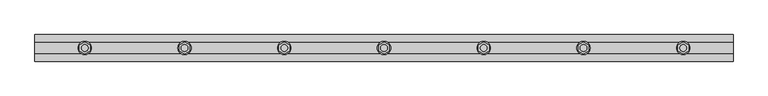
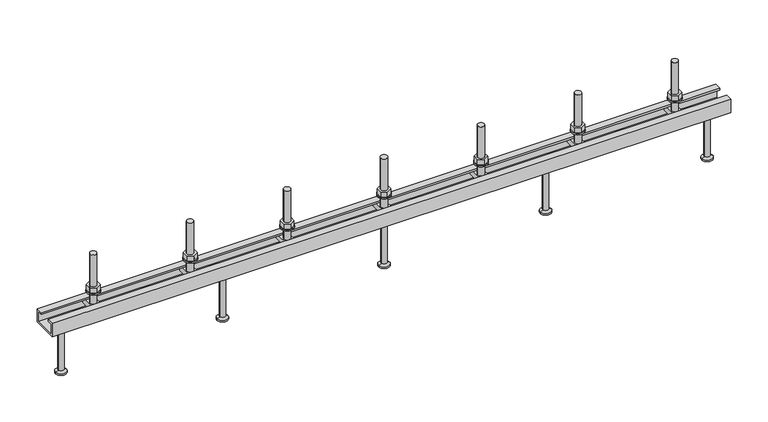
"""IFC4 building model written with IfcOpenShell, lengths in millimetres: fastener geometry, JTA-W JORDAHL® AnchorChannels : JTA-W L=1050 mm."""

from ifc_helpers import new_model, si_unit, point, frame, frame_2d, origin, place, context, project, spatial, polyline, circle_curve, trimmed, segment, composite_curve, outline, extrude, source, transform, mapped, element, save
from ifc_brep_helpers import plane_surface, cylinder_surface, revolved_surface, advanced_brep


def fastener_10b2d5fe(model_context):
    return source(origin(), model_context, "Body", "SolidModel", [
        extrude(outline(polyline([(825.0, 9.2376043), (833.0, 4.6188022), (833.0, -4.6188022), (825.0, -9.2376043), (817.0, -4.6188022), (817.0, 4.6188022), (825.0, 9.2376043)]), holes=[composite_curve([segment(trimmed(circle_curve(frame_2d((825.0, 0.0)), 5.0), [point((820.0, 0.0))], [point((830.0, 0.0))], True, "CARTESIAN"), True, "CONTINUOUS"), segment(trimmed(circle_curve(frame_2d((825.0, 0.0)), 5.0), [point((830.0, 0.0))], [point((820.0, 0.0))], True, "CARTESIAN"), True, "CONTINUOUS")], self_intersect=False)]), frame((0.0, 0.0, 17.0), z_axis=(0.0, 0.0, 1.0), x_axis=(1.0, 0.0, 0.0)), (0.0, 0.0, 1.0), 8.4),
        extrude(outline(composite_curve([segment(trimmed(circle_curve(frame_2d((825.0, 0.0)), 10.0), [point((815.0, 0.0))], [point((835.0, 0.0))], False, "CARTESIAN"), True, "CONTINUOUS"), segment(trimmed(circle_curve(frame_2d((825.0, 0.0)), 10.0), [point((835.0, 0.0))], [point((815.0, 0.0))], False, "CARTESIAN"), True, "CONTINUOUS")], self_intersect=False), holes=[composite_curve([segment(trimmed(circle_curve(frame_2d((825.0, 0.0)), 5.25), [point((819.75, 0.0))], [point((830.25, 0.0))], True, "CARTESIAN"), True, "CONTINUOUS"), segment(trimmed(circle_curve(frame_2d((825.0, 0.0)), 5.25), [point((830.25, 0.0))], [point((819.75, 0.0))], True, "CARTESIAN"), True, "CONTINUOUS")], self_intersect=False)]), frame((0.0, 0.0, 15.0), z_axis=(0.0, 0.0, 1.0), x_axis=(1.0, 0.0, 0.0)), (0.0, 0.0, 1.0), 2.0),
        extrude(outline(polyline([(675.0, 9.2376043), (683.0, 4.6188022), (683.0, -4.6188022), (675.0, -9.2376043), (667.0, -4.6188022), (667.0, 4.6188022), (675.0, 9.2376043)]), holes=[composite_curve([segment(trimmed(circle_curve(frame_2d((675.0, 0.0)), 5.0), [point((670.0, 0.0))], [point((680.0, 0.0))], True, "CARTESIAN"), True, "CONTINUOUS"), segment(trimmed(circle_curve(frame_2d((675.0, 0.0)), 5.0), [point((680.0, 0.0))], [point((670.0, 0.0))], True, "CARTESIAN"), True, "CONTINUOUS")], self_intersect=False)]), frame((0.0, 0.0, 17.0), z_axis=(0.0, 0.0, 1.0), x_axis=(1.0, 0.0, 0.0)), (0.0, 0.0, 1.0), 8.4),
        extrude(outline(composite_curve([segment(trimmed(circle_curve(frame_2d((675.0, 0.0)), 10.0), [point((665.0, 0.0))], [point((685.0, 0.0))], False, "CARTESIAN"), True, "CONTINUOUS"), segment(trimmed(circle_curve(frame_2d((675.0, 0.0)), 10.0), [point((685.0, 0.0))], [point((665.0, 0.0))], False, "CARTESIAN"), True, "CONTINUOUS")], self_intersect=False), holes=[composite_curve([segment(trimmed(circle_curve(frame_2d((675.0, 0.0)), 5.25), [point((669.75, 0.0))], [point((680.25, 0.0))], True, "CARTESIAN"), True, "CONTINUOUS"), segment(trimmed(circle_curve(frame_2d((675.0, 0.0)), 5.25), [point((680.25, 0.0))], [point((669.75, 0.0))], True, "CARTESIAN"), True, "CONTINUOUS")], self_intersect=False)]), frame((0.0, 0.0, 15.0), z_axis=(0.0, 0.0, 1.0), x_axis=(1.0, 0.0, 0.0)), (0.0, 0.0, 1.0), 2.0),
        extrude(outline(polyline([(525.0, 9.2376043), (533.0, 4.6188022), (533.0, -4.6188022), (525.0, -9.2376043), (517.0, -4.6188022), (517.0, 4.6188022), (525.0, 9.2376043)]), holes=[composite_curve([segment(trimmed(circle_curve(frame_2d((525.0, 0.0)), 5.0), [point((520.0, 0.0))], [point((530.0, 0.0))], True, "CARTESIAN"), True, "CONTINUOUS"), segment(trimmed(circle_curve(frame_2d((525.0, 0.0)), 5.0), [point((530.0, 0.0))], [point((520.0, 0.0))], True, "CARTESIAN"), True, "CONTINUOUS")], self_intersect=False)]), frame((0.0, 0.0, 17.0), z_axis=(0.0, 0.0, 1.0), x_axis=(1.0, 0.0, 0.0)), (0.0, 0.0, 1.0), 8.4),
        extrude(outline(composite_curve([segment(trimmed(circle_curve(frame_2d((525.0, 0.0)), 10.0), [point((515.0, 0.0))], [point((535.0, 0.0))], False, "CARTESIAN"), True, "CONTINUOUS"), segment(trimmed(circle_curve(frame_2d((525.0, 0.0)), 10.0), [point((535.0, 0.0))], [point((515.0, 0.0))], False, "CARTESIAN"), True, "CONTINUOUS")], self_intersect=False), holes=[composite_curve([segment(trimmed(circle_curve(frame_2d((525.0, 0.0)), 5.25), [point((519.75, 0.0))], [point((530.25, 0.0))], True, "CARTESIAN"), True, "CONTINUOUS"), segment(trimmed(circle_curve(frame_2d((525.0, 0.0)), 5.25), [point((530.25, 0.0))], [point((519.75, 0.0))], True, "CARTESIAN"), True, "CONTINUOUS")], self_intersect=False)]), frame((0.0, 0.0, 15.0), z_axis=(0.0, 0.0, 1.0), x_axis=(1.0, 0.0, 0.0)), (0.0, 0.0, 1.0), 2.0),
        extrude(outline(polyline([(375.0, 9.2376043), (383.0, 4.6188022), (383.0, -4.6188022), (375.0, -9.2376043), (367.0, -4.6188022), (367.0, 4.6188022), (375.0, 9.2376043)]), holes=[composite_curve([segment(trimmed(circle_curve(frame_2d((375.0, 0.0)), 5.0), [point((370.0, 0.0))], [point((380.0, 0.0))], True, "CARTESIAN"), True, "CONTINUOUS"), segment(trimmed(circle_curve(frame_2d((375.0, 0.0)), 5.0), [point((380.0, 0.0))], [point((370.0, 0.0))], True, "CARTESIAN"), True, "CONTINUOUS")], self_intersect=False)]), frame((0.0, 0.0, 17.0), z_axis=(0.0, 0.0, 1.0), x_axis=(1.0, 0.0, 0.0)), (0.0, 0.0, 1.0), 8.4),
        extrude(outline(composite_curve([segment(trimmed(circle_curve(frame_2d((375.0, 0.0)), 10.0), [point((365.0, 0.0))], [point((385.0, 0.0))], False, "CARTESIAN"), True, "CONTINUOUS"), segment(trimmed(circle_curve(frame_2d((375.0, 0.0)), 10.0), [point((385.0, 0.0))], [point((365.0, 0.0))], False, "CARTESIAN"), True, "CONTINUOUS")], self_intersect=False), holes=[composite_curve([segment(trimmed(circle_curve(frame_2d((375.0, 0.0)), 5.25), [point((369.75, 0.0))], [point((380.25, 0.0))], True, "CARTESIAN"), True, "CONTINUOUS"), segment(trimmed(circle_curve(frame_2d((375.0, 0.0)), 5.25), [point((380.25, 0.0))], [point((369.75, 0.0))], True, "CARTESIAN"), True, "CONTINUOUS")], self_intersect=False)]), frame((0.0, 0.0, 15.0), z_axis=(0.0, 0.0, 1.0), x_axis=(1.0, 0.0, 0.0)), (0.0, 0.0, 1.0), 2.0),
        extrude(outline(polyline([(225.0, 9.2376043), (233.0, 4.6188022), (233.0, -4.6188022), (225.0, -9.2376043), (217.0, -4.6188022), (217.0, 4.6188022), (225.0, 9.2376043)]), holes=[composite_curve([segment(trimmed(circle_curve(frame_2d((225.0, 0.0)), 5.0), [point((220.0, 0.0))], [point((230.0, 0.0))], True, "CARTESIAN"), True, "CONTINUOUS"), segment(trimmed(circle_curve(frame_2d((225.0, 0.0)), 5.0), [point((230.0, 0.0))], [point((220.0, 0.0))], True, "CARTESIAN"), True, "CONTINUOUS")], self_intersect=False)]), frame((0.0, 0.0, 17.0), z_axis=(0.0, 0.0, 1.0), x_axis=(1.0, 0.0, 0.0)), (0.0, 0.0, 1.0), 8.4),
        extrude(outline(composite_curve([segment(trimmed(circle_curve(frame_2d((225.0, 0.0)), 10.0), [point((215.0, 0.0))], [point((235.0, 0.0))], False, "CARTESIAN"), True, "CONTINUOUS"), segment(trimmed(circle_curve(frame_2d((225.0, 0.0)), 10.0), [point((235.0, 0.0))], [point((215.0, 0.0))], False, "CARTESIAN"), True, "CONTINUOUS")], self_intersect=False), holes=[composite_curve([segment(trimmed(circle_curve(frame_2d((225.0, 0.0)), 5.25), [point((219.75, 0.0))], [point((230.25, 0.0))], True, "CARTESIAN"), True, "CONTINUOUS"), segment(trimmed(circle_curve(frame_2d((225.0, 0.0)), 5.25), [point((230.25, 0.0))], [point((219.75, 0.0))], True, "CARTESIAN"), True, "CONTINUOUS")], self_intersect=False)]), frame((0.0, 0.0, 15.0), z_axis=(0.0, 0.0, 1.0), x_axis=(1.0, 0.0, 0.0)), (0.0, 0.0, 1.0), 2.0),
        advanced_brep(
        [(832.0, 16.25, -3.0), (832.0, -16.25, -3.0), (832.0, -16.25, -11.0), (832.0, 16.25, -11.0), (818.0, 16.25, -3.0), (818.0, 16.25, -11.0), (818.0, -16.25, -11.0), (818.0, -16.25, -3.0), (830.0, 0.0, -3.0), (820.0, 0.0, -3.0), (820.0, 0.0, 77.0), (830.0, 0.0, 77.0)],
        [
            (0, 1),
            (1, 2),
            (2, 3),
            (3, 0),
            (4, 5),
            (5, 6),
            (6, 7),
            (7, 4),
            (0, 4),
            (7, 1),
            (8, 9, circle_curve(frame((825.0, 0.0, -3.0), z_axis=(0.0, 0.0, -1.0), x_axis=(1.0, 0.0, 0.0)), 5.0)),
            (9, 8, circle_curve(frame((825.0, 0.0, -3.0), z_axis=(0.0, 0.0, -1.0), x_axis=(1.0, 0.0, 0.0)), 5.0)),
            (6, 2),
            (5, 3),
            (10, 11, circle_curve(frame((825.0, 0.0, 77.0), z_axis=(0.0, 0.0, 1.0), x_axis=(1.0, 0.0, 0.0)), 5.0)),
            (11, 10, circle_curve(frame((825.0, 0.0, 77.0), z_axis=(0.0, 0.0, 1.0), x_axis=(1.0, 0.0, 0.0)), 5.0)),
            (10, 9),
            (8, 11),
        ],
        [
            plane_surface(frame((832.0, -16.25, -3.0), z_axis=(1.0, 0.0, 0.0), x_axis=(0.0, -1.0, 0.0))),
            plane_surface(frame((818.0, -16.25, -3.0), z_axis=(-1.0, 0.0, 0.0), x_axis=(0.0, 1.0, 0.0))),
            plane_surface(frame((832.0, 16.25, -3.0), z_axis=(0.0, 0.0, 1.0), x_axis=(-1.0, 0.0, 0.0))),
            plane_surface(frame((832.0, -16.25, -3.0), z_axis=(0.0, -1.0, 0.0), x_axis=(-1.0, 0.0, 0.0))),
            plane_surface(frame((832.0, -16.25, -11.0), z_axis=(0.0, 0.0, -1.0), x_axis=(-1.0, 0.0, 0.0))),
            plane_surface(frame((832.0, 16.25, -11.0), z_axis=(0.0, 1.0, 0.0), x_axis=(-1.0, 0.0, 0.0))),
            plane_surface(frame((830.0, 0.0, 77.0), z_axis=(0.0, 0.0, 1.0), x_axis=(0.0, 1.0, 0.0))),
            cylinder_surface(frame((825.0, 0.0, -3.0), z_axis=(0.0, 0.0, 1.0), x_axis=(1.0, 0.0, 0.0)), 5.0),
        ],
        [
            (0, [[1, 2, 3, 4]]),
            (1, [[5, 6, 7, 8]]),
            (2, [[-1, 9, -8, 10], [11, 12]]),
            (3, [[-2, -10, -7, 13]]),
            (4, [[-3, -13, -6, 14]]),
            (5, [[-4, -14, -5, -9]]),
            (6, [[15, 16]]),
            (7, [[-15, 17, -11, 18]]),
            (7, [[-16, -18, -12, -17]]),
        ],
    ),
        advanced_brep(
        [(682.0, 16.25, -3.0), (682.0, -16.25, -3.0), (682.0, -16.25, -11.0), (682.0, 16.25, -11.0), (668.0, 16.25, -3.0), (668.0, 16.25, -11.0), (668.0, -16.25, -11.0), (668.0, -16.25, -3.0), (680.0, 0.0, -3.0), (670.0, 0.0, -3.0), (670.0, 0.0, 77.0), (680.0, 0.0, 77.0)],
        [
            (0, 1),
            (1, 2),
            (2, 3),
            (3, 0),
            (4, 5),
            (5, 6),
            (6, 7),
            (7, 4),
            (0, 4),
            (7, 1),
            (8, 9, circle_curve(frame((675.0, 0.0, -3.0), z_axis=(0.0, 0.0, -1.0), x_axis=(1.0, 0.0, 0.0)), 5.0)),
            (9, 8, circle_curve(frame((675.0, 0.0, -3.0), z_axis=(0.0, 0.0, -1.0), x_axis=(1.0, 0.0, 0.0)), 5.0)),
            (6, 2),
            (5, 3),
            (10, 11, circle_curve(frame((675.0, 0.0, 77.0), z_axis=(0.0, 0.0, 1.0), x_axis=(1.0, 0.0, 0.0)), 5.0)),
            (11, 10, circle_curve(frame((675.0, 0.0, 77.0), z_axis=(0.0, 0.0, 1.0), x_axis=(1.0, 0.0, 0.0)), 5.0)),
            (10, 9),
            (8, 11),
        ],
        [
            plane_surface(frame((682.0, -16.25, -3.0), z_axis=(1.0, 0.0, 0.0), x_axis=(0.0, -1.0, 0.0))),
            plane_surface(frame((668.0, -16.25, -3.0), z_axis=(-1.0, 0.0, 0.0), x_axis=(0.0, 1.0, 0.0))),
            plane_surface(frame((682.0, 16.25, -3.0), z_axis=(0.0, 0.0, 1.0), x_axis=(-1.0, 0.0, 0.0))),
            plane_surface(frame((682.0, -16.25, -3.0), z_axis=(0.0, -1.0, 0.0), x_axis=(-1.0, 0.0, 0.0))),
            plane_surface(frame((682.0, -16.25, -11.0), z_axis=(0.0, 0.0, -1.0), x_axis=(-1.0, 0.0, 0.0))),
            plane_surface(frame((682.0, 16.25, -11.0), z_axis=(0.0, 1.0, 0.0), x_axis=(-1.0, 0.0, 0.0))),
            plane_surface(frame((680.0, 0.0, 77.0), z_axis=(0.0, 0.0, 1.0), x_axis=(0.0, 1.0, 0.0))),
            cylinder_surface(frame((675.0, 0.0, -3.0), z_axis=(0.0, 0.0, 1.0), x_axis=(1.0, 0.0, 0.0)), 5.0),
        ],
        [
            (0, [[1, 2, 3, 4]]),
            (1, [[5, 6, 7, 8]]),
            (2, [[-1, 9, -8, 10], [11, 12]]),
            (3, [[-2, -10, -7, 13]]),
            (4, [[-3, -13, -6, 14]]),
            (5, [[-4, -14, -5, -9]]),
            (6, [[15, 16]]),
            (7, [[-15, 17, -11, 18]]),
            (7, [[-16, -18, -12, -17]]),
        ],
    ),
        advanced_brep(
        [(532.0, 16.25, -3.0), (532.0, -16.25, -3.0), (532.0, -16.25, -11.0), (532.0, 16.25, -11.0), (518.0, 16.25, -3.0), (518.0, 16.25, -11.0), (518.0, -16.25, -11.0), (518.0, -16.25, -3.0), (530.0, 0.0, -3.0), (520.0, 0.0, -3.0), (520.0, 0.0, 77.0), (530.0, 0.0, 77.0)],
        [
            (0, 1),
            (1, 2),
            (2, 3),
            (3, 0),
            (4, 5),
            (5, 6),
            (6, 7),
            (7, 4),
            (0, 4),
            (7, 1),
            (8, 9, circle_curve(frame((525.0, 0.0, -3.0), z_axis=(0.0, 0.0, -1.0), x_axis=(1.0, 0.0, 0.0)), 5.0)),
            (9, 8, circle_curve(frame((525.0, 0.0, -3.0), z_axis=(0.0, 0.0, -1.0), x_axis=(1.0, 0.0, 0.0)), 5.0)),
            (6, 2),
            (5, 3),
            (10, 11, circle_curve(frame((525.0, 0.0, 77.0), z_axis=(0.0, 0.0, 1.0), x_axis=(1.0, 0.0, 0.0)), 5.0)),
            (11, 10, circle_curve(frame((525.0, 0.0, 77.0), z_axis=(0.0, 0.0, 1.0), x_axis=(1.0, 0.0, 0.0)), 5.0)),
            (10, 9),
            (8, 11),
        ],
        [
            plane_surface(frame((532.0, -16.25, -3.0), z_axis=(1.0, 0.0, 0.0), x_axis=(0.0, -1.0, 0.0))),
            plane_surface(frame((518.0, -16.25, -3.0), z_axis=(-1.0, 0.0, 0.0), x_axis=(0.0, 1.0, 0.0))),
            plane_surface(frame((532.0, 16.25, -3.0), z_axis=(0.0, 0.0, 1.0), x_axis=(-1.0, 0.0, 0.0))),
            plane_surface(frame((532.0, -16.25, -3.0), z_axis=(0.0, -1.0, 0.0), x_axis=(-1.0, 0.0, 0.0))),
            plane_surface(frame((532.0, -16.25, -11.0), z_axis=(0.0, 0.0, -1.0), x_axis=(-1.0, 0.0, 0.0))),
            plane_surface(frame((532.0, 16.25, -11.0), z_axis=(0.0, 1.0, 0.0), x_axis=(-1.0, 0.0, 0.0))),
            plane_surface(frame((530.0, 0.0, 77.0), z_axis=(0.0, 0.0, 1.0), x_axis=(0.0, 1.0, 0.0))),
            cylinder_surface(frame((525.0, 0.0, -3.0), z_axis=(0.0, 0.0, 1.0), x_axis=(1.0, 0.0, 0.0)), 5.0),
        ],
        [
            (0, [[1, 2, 3, 4]]),
            (1, [[5, 6, 7, 8]]),
            (2, [[-1, 9, -8, 10], [11, 12]]),
            (3, [[-2, -10, -7, 13]]),
            (4, [[-3, -13, -6, 14]]),
            (5, [[-4, -14, -5, -9]]),
            (6, [[15, 16]]),
            (7, [[-15, 17, -11, 18]]),
            (7, [[-16, -18, -12, -17]]),
        ],
    ),
        advanced_brep(
        [(382.0, 16.25, -3.0), (382.0, -16.25, -3.0), (382.0, -16.25, -11.0), (382.0, 16.25, -11.0), (368.0, 16.25, -3.0), (368.0, 16.25, -11.0), (368.0, -16.25, -11.0), (368.0, -16.25, -3.0), (380.0, 0.0, -3.0), (370.0, 0.0, -3.0), (370.0, 0.0, 77.0), (380.0, 0.0, 77.0)],
        [
            (0, 1),
            (1, 2),
            (2, 3),
            (3, 0),
            (4, 5),
            (5, 6),
            (6, 7),
            (7, 4),
            (0, 4),
            (7, 1),
            (8, 9, circle_curve(frame((375.0, 0.0, -3.0), z_axis=(0.0, 0.0, -1.0), x_axis=(1.0, 0.0, 0.0)), 5.0)),
            (9, 8, circle_curve(frame((375.0, 0.0, -3.0), z_axis=(0.0, 0.0, -1.0), x_axis=(1.0, 0.0, 0.0)), 5.0)),
            (6, 2),
            (5, 3),
            (10, 11, circle_curve(frame((375.0, 0.0, 77.0), z_axis=(0.0, 0.0, 1.0), x_axis=(1.0, 0.0, 0.0)), 5.0)),
            (11, 10, circle_curve(frame((375.0, 0.0, 77.0), z_axis=(0.0, 0.0, 1.0), x_axis=(1.0, 0.0, 0.0)), 5.0)),
            (10, 9),
            (8, 11),
        ],
        [
            plane_surface(frame((382.0, -16.25, -3.0), z_axis=(1.0, 0.0, 0.0), x_axis=(0.0, -1.0, 0.0))),
            plane_surface(frame((368.0, -16.25, -3.0), z_axis=(-1.0, 0.0, 0.0), x_axis=(0.0, 1.0, 0.0))),
            plane_surface(frame((382.0, 16.25, -3.0), z_axis=(0.0, 0.0, 1.0), x_axis=(-1.0, 0.0, 0.0))),
            plane_surface(frame((382.0, -16.25, -3.0), z_axis=(0.0, -1.0, 0.0), x_axis=(-1.0, 0.0, 0.0))),
            plane_surface(frame((382.0, -16.25, -11.0), z_axis=(0.0, 0.0, -1.0), x_axis=(-1.0, 0.0, 0.0))),
            plane_surface(frame((382.0, 16.25, -11.0), z_axis=(0.0, 1.0, 0.0), x_axis=(-1.0, 0.0, 0.0))),
            plane_surface(frame((380.0, 0.0, 77.0), z_axis=(0.0, 0.0, 1.0), x_axis=(0.0, 1.0, 0.0))),
            cylinder_surface(frame((375.0, 0.0, -3.0), z_axis=(0.0, 0.0, 1.0), x_axis=(1.0, 0.0, 0.0)), 5.0),
        ],
        [
            (0, [[1, 2, 3, 4]]),
            (1, [[5, 6, 7, 8]]),
            (2, [[-1, 9, -8, 10], [11, 12]]),
            (3, [[-2, -10, -7, 13]]),
            (4, [[-3, -13, -6, 14]]),
            (5, [[-4, -14, -5, -9]]),
            (6, [[15, 16]]),
            (7, [[-15, 17, -11, 18]]),
            (7, [[-16, -18, -12, -17]]),
        ],
    ),
        advanced_brep(
        [(232.0, 16.25, -3.0), (232.0, -16.25, -3.0), (232.0, -16.25, -11.0), (232.0, 16.25, -11.0), (218.0, 16.25, -3.0), (218.0, 16.25, -11.0), (218.0, -16.25, -11.0), (218.0, -16.25, -3.0), (230.0, 0.0, -3.0), (220.0, 0.0, -3.0), (220.0, 0.0, 77.0), (230.0, 0.0, 77.0)],
        [
            (0, 1),
            (1, 2),
            (2, 3),
            (3, 0),
            (4, 5),
            (5, 6),
            (6, 7),
            (7, 4),
            (0, 4),
            (7, 1),
            (8, 9, circle_curve(frame((225.0, 0.0, -3.0), z_axis=(0.0, 0.0, -1.0), x_axis=(1.0, 0.0, 0.0)), 5.0)),
            (9, 8, circle_curve(frame((225.0, 0.0, -3.0), z_axis=(0.0, 0.0, -1.0), x_axis=(1.0, 0.0, 0.0)), 5.0)),
            (6, 2),
            (5, 3),
            (10, 11, circle_curve(frame((225.0, 0.0, 77.0), z_axis=(0.0, 0.0, 1.0), x_axis=(1.0, 0.0, 0.0)), 5.0)),
            (11, 10, circle_curve(frame((225.0, 0.0, 77.0), z_axis=(0.0, 0.0, 1.0), x_axis=(1.0, 0.0, 0.0)), 5.0)),
            (10, 9),
            (8, 11),
        ],
        [
            plane_surface(frame((232.0, -16.25, -3.0), z_axis=(1.0, 0.0, 0.0), x_axis=(0.0, -1.0, 0.0))),
            plane_surface(frame((218.0, -16.25, -3.0), z_axis=(-1.0, 0.0, 0.0), x_axis=(0.0, 1.0, 0.0))),
            plane_surface(frame((232.0, 16.25, -3.0), z_axis=(0.0, 0.0, 1.0), x_axis=(-1.0, 0.0, 0.0))),
            plane_surface(frame((232.0, -16.25, -3.0), z_axis=(0.0, -1.0, 0.0), x_axis=(-1.0, 0.0, 0.0))),
            plane_surface(frame((232.0, -16.25, -11.0), z_axis=(0.0, 0.0, -1.0), x_axis=(-1.0, 0.0, 0.0))),
            plane_surface(frame((232.0, 16.25, -11.0), z_axis=(0.0, 1.0, 0.0), x_axis=(-1.0, 0.0, 0.0))),
            plane_surface(frame((230.0, 0.0, 77.0), z_axis=(0.0, 0.0, 1.0), x_axis=(0.0, 1.0, 0.0))),
            cylinder_surface(frame((225.0, 0.0, -3.0), z_axis=(0.0, 0.0, 1.0), x_axis=(1.0, 0.0, 0.0)), 5.0),
        ],
        [
            (0, [[1, 2, 3, 4]]),
            (1, [[5, 6, 7, 8]]),
            (2, [[-1, 9, -8, 10], [11, 12]]),
            (3, [[-2, -10, -7, 13]]),
            (4, [[-3, -13, -6, 14]]),
            (5, [[-4, -14, -5, -9]]),
            (6, [[15, 16]]),
            (7, [[-15, 17, -11, 18]]),
            (7, [[-16, -18, -12, -17]]),
        ],
    ),
        advanced_brep(
        [(775.0, 0.0, -22.0), (788.5, 0.0, -22.0), (761.5, 0.0, -22.0), (766.5, 0.0, -100.0), (783.5, 0.0, -100.0), (775.0, 0.0, -100.0), (766.5, 0.0, -98.0), (783.5, 0.0, -98.0), (770.5, 0.0, -95.6905989), (779.5, 0.0, -95.6905989), (770.5, 0.0, -24.5), (779.5, 0.0, -24.5)],
        [
            (0, 1),
            (1, 2, circle_curve(frame((775.0, 0.0, -22.0), z_axis=(0.0, 0.0, 1.0), x_axis=(1.0, 0.0, 0.0)), 13.5)),
            (2, 0),
            (2, 1, circle_curve(frame((775.0, 0.0, -22.0), z_axis=(0.0, 0.0, 1.0), x_axis=(1.0, 0.0, 0.0)), 13.5)),
            (3, 4, circle_curve(frame((775.0, 0.0, -100.0), z_axis=(0.0, 0.0, -1.0), x_axis=(1.0, 0.0, 0.0)), 8.5)),
            (4, 5),
            (5, 3),
            (4, 3, circle_curve(frame((775.0, 0.0, -100.0), z_axis=(0.0, 0.0, -1.0), x_axis=(1.0, 0.0, 0.0)), 8.5)),
            (6, 7, circle_curve(frame((775.0, 0.0, -98.0), z_axis=(0.0, 0.0, -1.0), x_axis=(1.0, 0.0, 0.0)), 8.5)),
            (7, 4),
            (3, 6),
            (7, 6, circle_curve(frame((775.0, 0.0, -98.0), z_axis=(0.0, 0.0, -1.0), x_axis=(1.0, 0.0, 0.0)), 8.5)),
            (8, 9, circle_curve(frame((775.0, 0.0, -95.6905989), z_axis=(0.0, 0.0, -1.0), x_axis=(1.0, 0.0, 0.0)), 4.5)),
            (9, 7),
            (6, 8),
            (9, 8, circle_curve(frame((775.0, 0.0, -95.6905989), z_axis=(0.0, 0.0, -1.0), x_axis=(1.0, 0.0, 0.0)), 4.5)),
            (10, 11, circle_curve(frame((775.0, 0.0, -24.5), z_axis=(0.0, 0.0, -1.0), x_axis=(1.0, 0.0, 0.0)), 4.5)),
            (11, 9),
            (8, 10),
            (11, 10, circle_curve(frame((775.0, 0.0, -24.5), z_axis=(0.0, 0.0, -1.0), x_axis=(1.0, 0.0, 0.0)), 4.5)),
            (1, 11),
            (10, 2),
        ],
        [
            plane_surface(frame((775.0, 0.0, -22.0), z_axis=(0.0, 0.0, 1.0), x_axis=(1.0, 0.0, 0.0))),
            plane_surface(frame((775.0, 0.0, -100.0), z_axis=(0.0, 0.0, -1.0), x_axis=(1.0, 0.0, 0.0))),
            cylinder_surface(frame((775.0, 0.0, 2292.3150031), z_axis=(0.0, 0.0, 1.0), x_axis=(1.0, 0.0, 0.0)), 8.5),
            revolved_surface(polyline([(783.5, 0.0, -98.0), (779.5, 0.0, -95.6905989)]), (775.0, 0.0, 2292.3150031), (0.0, 0.0, 1.0)),
            cylinder_surface(frame((775.0, 0.0, 2292.3150031), z_axis=(0.0, 0.0, 1.0), x_axis=(1.0, 0.0, 0.0)), 4.5),
            revolved_surface(polyline([(779.5, 0.0, -24.5), (788.5, 0.0, -22.0)]), (775.0, 0.0, 2292.3150031), (0.0, 0.0, 1.0)),
        ],
        [
            (0, [[1, 2, 3]]),
            (0, [[-3, 4, -1]]),
            (1, [[5, 6, 7]]),
            (1, [[8, -7, -6]]),
            (2, [[9, 10, -5, 11]]),
            (2, [[12, -11, -8, -10]]),
            (3, [[13, 14, -9, 15]]),
            (3, [[16, -15, -12, -14]]),
            (4, [[17, 18, -13, 19]]),
            (4, [[20, -19, -16, -18]]),
            (5, [[-2, 21, -17, 22]]),
            (5, [[-4, -22, -20, -21]]),
        ],
    ),
        advanced_brep(
        [(525.0, 0.0, -22.0), (538.5, 0.0, -22.0), (511.5, 0.0, -22.0), (516.5, 0.0, -100.0), (533.5, 0.0, -100.0), (525.0, 0.0, -100.0), (516.5, 0.0, -98.0), (533.5, 0.0, -98.0), (520.5, 0.0, -95.6905989), (529.5, 0.0, -95.6905989), (520.5, 0.0, -24.5), (529.5, 0.0, -24.5)],
        [
            (0, 1),
            (1, 2, circle_curve(frame((525.0, 0.0, -22.0), z_axis=(0.0, 0.0, 1.0), x_axis=(1.0, 0.0, 0.0)), 13.5)),
            (2, 0),
            (2, 1, circle_curve(frame((525.0, 0.0, -22.0), z_axis=(0.0, 0.0, 1.0), x_axis=(1.0, 0.0, 0.0)), 13.5)),
            (3, 4, circle_curve(frame((525.0, 0.0, -100.0), z_axis=(0.0, 0.0, -1.0), x_axis=(1.0, 0.0, 0.0)), 8.5)),
            (4, 5),
            (5, 3),
            (4, 3, circle_curve(frame((525.0, 0.0, -100.0), z_axis=(0.0, 0.0, -1.0), x_axis=(1.0, 0.0, 0.0)), 8.5)),
            (6, 7, circle_curve(frame((525.0, 0.0, -98.0), z_axis=(0.0, 0.0, -1.0), x_axis=(1.0, 0.0, 0.0)), 8.5)),
            (7, 4),
            (3, 6),
            (7, 6, circle_curve(frame((525.0, 0.0, -98.0), z_axis=(0.0, 0.0, -1.0), x_axis=(1.0, 0.0, 0.0)), 8.5)),
            (8, 9, circle_curve(frame((525.0, 0.0, -95.6905989), z_axis=(0.0, 0.0, -1.0), x_axis=(1.0, 0.0, 0.0)), 4.5)),
            (9, 7),
            (6, 8),
            (9, 8, circle_curve(frame((525.0, 0.0, -95.6905989), z_axis=(0.0, 0.0, -1.0), x_axis=(1.0, 0.0, 0.0)), 4.5)),
            (10, 11, circle_curve(frame((525.0, 0.0, -24.5), z_axis=(0.0, 0.0, -1.0), x_axis=(1.0, 0.0, 0.0)), 4.5)),
            (11, 9),
            (8, 10),
            (11, 10, circle_curve(frame((525.0, 0.0, -24.5), z_axis=(0.0, 0.0, -1.0), x_axis=(1.0, 0.0, 0.0)), 4.5)),
            (1, 11),
            (10, 2),
        ],
        [
            plane_surface(frame((525.0, 0.0, -22.0), z_axis=(0.0, 0.0, 1.0), x_axis=(1.0, 0.0, 0.0))),
            plane_surface(frame((525.0, 0.0, -100.0), z_axis=(0.0, 0.0, -1.0), x_axis=(1.0, 0.0, 0.0))),
            cylinder_surface(frame((525.0, 0.0, 2292.3150031), z_axis=(0.0, 0.0, 1.0), x_axis=(1.0, 0.0, 0.0)), 8.5),
            revolved_surface(polyline([(533.5, 0.0, -98.0), (529.5, 0.0, -95.6905989)]), (525.0, 0.0, 2292.3150031), (0.0, 0.0, 1.0)),
            cylinder_surface(frame((525.0, 0.0, 2292.3150031), z_axis=(0.0, 0.0, 1.0), x_axis=(1.0, 0.0, 0.0)), 4.5),
            revolved_surface(polyline([(529.5, 0.0, -24.5), (538.5, 0.0, -22.0)]), (525.0, 0.0, 2292.3150031), (0.0, 0.0, 1.0)),
        ],
        [
            (0, [[1, 2, 3]]),
            (0, [[-3, 4, -1]]),
            (1, [[5, 6, 7]]),
            (1, [[8, -7, -6]]),
            (2, [[9, 10, -5, 11]]),
            (2, [[12, -11, -8, -10]]),
            (3, [[13, 14, -9, 15]]),
            (3, [[16, -15, -12, -14]]),
            (4, [[17, 18, -13, 19]]),
            (4, [[20, -19, -16, -18]]),
            (5, [[-2, 21, -17, 22]]),
            (5, [[-4, -22, -20, -21]]),
        ],
    ),
        advanced_brep(
        [(275.0, 0.0, -22.0), (288.5, 0.0, -22.0), (261.5, 0.0, -22.0), (266.5, 0.0, -100.0), (283.5, 0.0, -100.0), (275.0, 0.0, -100.0), (266.5, 0.0, -98.0), (283.5, 0.0, -98.0), (270.5, 0.0, -95.6905989), (279.5, 0.0, -95.6905989), (270.5, 0.0, -24.5), (279.5, 0.0, -24.5)],
        [
            (0, 1),
            (1, 2, circle_curve(frame((275.0, 0.0, -22.0), z_axis=(0.0, 0.0, 1.0), x_axis=(1.0, 0.0, 0.0)), 13.5)),
            (2, 0),
            (2, 1, circle_curve(frame((275.0, 0.0, -22.0), z_axis=(0.0, 0.0, 1.0), x_axis=(1.0, 0.0, 0.0)), 13.5)),
            (3, 4, circle_curve(frame((275.0, 0.0, -100.0), z_axis=(0.0, 0.0, -1.0), x_axis=(1.0, 0.0, 0.0)), 8.5)),
            (4, 5),
            (5, 3),
            (4, 3, circle_curve(frame((275.0, 0.0, -100.0), z_axis=(0.0, 0.0, -1.0), x_axis=(1.0, 0.0, 0.0)), 8.5)),
            (6, 7, circle_curve(frame((275.0, 0.0, -98.0), z_axis=(0.0, 0.0, -1.0), x_axis=(1.0, 0.0, 0.0)), 8.5)),
            (7, 4),
            (3, 6),
            (7, 6, circle_curve(frame((275.0, 0.0, -98.0), z_axis=(0.0, 0.0, -1.0), x_axis=(1.0, 0.0, 0.0)), 8.5)),
            (8, 9, circle_curve(frame((275.0, 0.0, -95.6905989), z_axis=(0.0, 0.0, -1.0), x_axis=(1.0, 0.0, 0.0)), 4.5)),
            (9, 7),
            (6, 8),
            (9, 8, circle_curve(frame((275.0, 0.0, -95.6905989), z_axis=(0.0, 0.0, -1.0), x_axis=(1.0, 0.0, 0.0)), 4.5)),
            (10, 11, circle_curve(frame((275.0, 0.0, -24.5), z_axis=(0.0, 0.0, -1.0), x_axis=(1.0, 0.0, 0.0)), 4.5)),
            (11, 9),
            (8, 10),
            (11, 10, circle_curve(frame((275.0, 0.0, -24.5), z_axis=(0.0, 0.0, -1.0), x_axis=(1.0, 0.0, 0.0)), 4.5)),
            (1, 11),
            (10, 2),
        ],
        [
            plane_surface(frame((275.0, 0.0, -22.0), z_axis=(0.0, 0.0, 1.0), x_axis=(1.0, 0.0, 0.0))),
            plane_surface(frame((275.0, 0.0, -100.0), z_axis=(0.0, 0.0, -1.0), x_axis=(1.0, 0.0, 0.0))),
            cylinder_surface(frame((275.0, 0.0, 2292.3150031), z_axis=(0.0, 0.0, 1.0), x_axis=(1.0, 0.0, 0.0)), 8.5),
            revolved_surface(polyline([(283.5, 0.0, -98.0), (279.5, 0.0, -95.6905989)]), (275.0, 0.0, 2292.3150031), (0.0, 0.0, 1.0)),
            cylinder_surface(frame((275.0, 0.0, 2292.3150031), z_axis=(0.0, 0.0, 1.0), x_axis=(1.0, 0.0, 0.0)), 4.5),
            revolved_surface(polyline([(279.5, 0.0, -24.5), (288.5, 0.0, -22.0)]), (275.0, 0.0, 2292.3150031), (0.0, 0.0, 1.0)),
        ],
        [
            (0, [[1, 2, 3]]),
            (0, [[-3, 4, -1]]),
            (1, [[5, 6, 7]]),
            (1, [[8, -7, -6]]),
            (2, [[9, 10, -5, 11]]),
            (2, [[12, -11, -8, -10]]),
            (3, [[13, 14, -9, 15]]),
            (3, [[16, -15, -12, -14]]),
            (4, [[17, 18, -13, 19]]),
            (4, [[20, -19, -16, -18]]),
            (5, [[-2, 21, -17, 22]]),
            (5, [[-4, -22, -20, -21]]),
        ],
    ),
        extrude(outline(polyline([(975.0, 9.2376043), (983.0, 4.6188022), (983.0, -4.6188022), (975.0, -9.2376043), (967.0, -4.6188022), (967.0, 4.6188022), (975.0, 9.2376043)]), holes=[composite_curve([segment(trimmed(circle_curve(frame_2d((975.0, 0.0)), 5.0), [point((970.0, 0.0))], [point((980.0, 0.0))], True, "CARTESIAN"), True, "CONTINUOUS"), segment(trimmed(circle_curve(frame_2d((975.0, 0.0)), 5.0), [point((980.0, 0.0))], [point((970.0, 0.0))], True, "CARTESIAN"), True, "CONTINUOUS")], self_intersect=False)]), frame((0.0, 0.0, 17.0), z_axis=(0.0, 0.0, 1.0), x_axis=(1.0, 0.0, 0.0)), (0.0, 0.0, 1.0), 8.4),
        extrude(outline(composite_curve([segment(trimmed(circle_curve(frame_2d((975.0, 0.0)), 10.0), [point((965.0, 0.0))], [point((985.0, 0.0))], False, "CARTESIAN"), True, "CONTINUOUS"), segment(trimmed(circle_curve(frame_2d((975.0, 0.0)), 10.0), [point((985.0, 0.0))], [point((965.0, 0.0))], False, "CARTESIAN"), True, "CONTINUOUS")], self_intersect=False), holes=[composite_curve([segment(trimmed(circle_curve(frame_2d((975.0, 0.0)), 5.25), [point((969.75, 0.0))], [point((980.25, 0.0))], True, "CARTESIAN"), True, "CONTINUOUS"), segment(trimmed(circle_curve(frame_2d((975.0, 0.0)), 5.25), [point((980.25, 0.0))], [point((969.75, 0.0))], True, "CARTESIAN"), True, "CONTINUOUS")], self_intersect=False)]), frame((0.0, 0.0, 15.0), z_axis=(0.0, 0.0, 1.0), x_axis=(1.0, 0.0, 0.0)), (0.0, 0.0, 1.0), 2.0),
        extrude(outline(polyline([(75.0, 9.2376043), (83.0, 4.6188022), (83.0, -4.6188022), (75.0, -9.2376043), (67.0, -4.6188022), (67.0, 4.6188022), (75.0, 9.2376043)]), holes=[composite_curve([segment(trimmed(circle_curve(frame_2d((75.0, 0.0)), 5.0), [point((70.0, 0.0))], [point((80.0, 0.0))], True, "CARTESIAN"), True, "CONTINUOUS"), segment(trimmed(circle_curve(frame_2d((75.0, 0.0)), 5.0), [point((80.0, 0.0))], [point((70.0, 0.0))], True, "CARTESIAN"), True, "CONTINUOUS")], self_intersect=False)]), frame((0.0, 0.0, 17.0), z_axis=(0.0, 0.0, 1.0), x_axis=(1.0, 0.0, 0.0)), (0.0, 0.0, 1.0), 8.4),
        extrude(outline(composite_curve([segment(trimmed(circle_curve(frame_2d((75.0, 0.0)), 10.0), [point((65.0, 0.0))], [point((85.0, 0.0))], False, "CARTESIAN"), True, "CONTINUOUS"), segment(trimmed(circle_curve(frame_2d((75.0, 0.0)), 10.0), [point((85.0, 0.0))], [point((65.0, 0.0))], False, "CARTESIAN"), True, "CONTINUOUS")], self_intersect=False), holes=[composite_curve([segment(trimmed(circle_curve(frame_2d((75.0, 0.0)), 5.25), [point((69.75, 0.0))], [point((80.25, 0.0))], True, "CARTESIAN"), True, "CONTINUOUS"), segment(trimmed(circle_curve(frame_2d((75.0, 0.0)), 5.25), [point((80.25, 0.0))], [point((69.75, 0.0))], True, "CARTESIAN"), True, "CONTINUOUS")], self_intersect=False)]), frame((0.0, 0.0, 15.0), z_axis=(0.0, 0.0, 1.0), x_axis=(1.0, 0.0, 0.0)), (0.0, 0.0, 1.0), 2.0),
        advanced_brep(
        [(982.0, 16.25, -3.0), (982.0, -16.25, -3.0), (982.0, -16.25, -11.0), (982.0, 16.25, -11.0), (968.0, 16.25, -3.0), (968.0, 16.25, -11.0), (968.0, -16.25, -11.0), (968.0, -16.25, -3.0), (980.0, 0.0, -3.0), (970.0, 0.0, -3.0), (970.0, 0.0, 77.0), (980.0, 0.0, 77.0)],
        [
            (0, 1),
            (1, 2),
            (2, 3),
            (3, 0),
            (4, 5),
            (5, 6),
            (6, 7),
            (7, 4),
            (0, 4),
            (7, 1),
            (8, 9, circle_curve(frame((975.0, 0.0, -3.0), z_axis=(0.0, 0.0, -1.0), x_axis=(1.0, 0.0, 0.0)), 5.0)),
            (9, 8, circle_curve(frame((975.0, 0.0, -3.0), z_axis=(0.0, 0.0, -1.0), x_axis=(1.0, 0.0, 0.0)), 5.0)),
            (6, 2),
            (5, 3),
            (10, 11, circle_curve(frame((975.0, 0.0, 77.0), z_axis=(0.0, 0.0, 1.0), x_axis=(1.0, 0.0, 0.0)), 5.0)),
            (11, 10, circle_curve(frame((975.0, 0.0, 77.0), z_axis=(0.0, 0.0, 1.0), x_axis=(1.0, 0.0, 0.0)), 5.0)),
            (10, 9),
            (8, 11),
        ],
        [
            plane_surface(frame((982.0, -16.25, -3.0), z_axis=(1.0, 0.0, 0.0), x_axis=(0.0, -1.0, 0.0))),
            plane_surface(frame((968.0, -16.25, -3.0), z_axis=(-1.0, 0.0, 0.0), x_axis=(0.0, 1.0, 0.0))),
            plane_surface(frame((982.0, 16.25, -3.0), z_axis=(0.0, 0.0, 1.0), x_axis=(-1.0, 0.0, 0.0))),
            plane_surface(frame((982.0, -16.25, -3.0), z_axis=(0.0, -1.0, 0.0), x_axis=(-1.0, 0.0, 0.0))),
            plane_surface(frame((982.0, -16.25, -11.0), z_axis=(0.0, 0.0, -1.0), x_axis=(-1.0, 0.0, 0.0))),
            plane_surface(frame((982.0, 16.25, -11.0), z_axis=(0.0, 1.0, 0.0), x_axis=(-1.0, 0.0, 0.0))),
            plane_surface(frame((980.0, 0.0, 77.0), z_axis=(0.0, 0.0, 1.0), x_axis=(0.0, 1.0, 0.0))),
            cylinder_surface(frame((975.0, 0.0, -3.0), z_axis=(0.0, 0.0, 1.0), x_axis=(1.0, 0.0, 0.0)), 5.0),
        ],
        [
            (0, [[1, 2, 3, 4]]),
            (1, [[5, 6, 7, 8]]),
            (2, [[-1, 9, -8, 10], [11, 12]]),
            (3, [[-2, -10, -7, 13]]),
            (4, [[-3, -13, -6, 14]]),
            (5, [[-4, -14, -5, -9]]),
            (6, [[15, 16]]),
            (7, [[-15, 17, -11, 18]]),
            (7, [[-16, -18, -12, -17]]),
        ],
    ),
        advanced_brep(
        [(82.0, 16.25, -3.0), (82.0, -16.25, -3.0), (82.0, -16.25, -11.0), (82.0, 16.25, -11.0), (68.0, 16.25, -3.0), (68.0, 16.25, -11.0), (68.0, -16.25, -11.0), (68.0, -16.25, -3.0), (80.0, 0.0, -3.0), (70.0, 0.0, -3.0), (70.0, 0.0, 77.0), (80.0, 0.0, 77.0)],
        [
            (0, 1),
            (1, 2),
            (2, 3),
            (3, 0),
            (4, 5),
            (5, 6),
            (6, 7),
            (7, 4),
            (0, 4),
            (7, 1),
            (8, 9, circle_curve(frame((75.0, 0.0, -3.0), z_axis=(0.0, 0.0, -1.0), x_axis=(1.0, 0.0, 0.0)), 5.0)),
            (9, 8, circle_curve(frame((75.0, 0.0, -3.0), z_axis=(0.0, 0.0, -1.0), x_axis=(1.0, 0.0, 0.0)), 5.0)),
            (6, 2),
            (5, 3),
            (10, 11, circle_curve(frame((75.0, 0.0, 77.0), z_axis=(0.0, 0.0, 1.0), x_axis=(1.0, 0.0, 0.0)), 5.0)),
            (11, 10, circle_curve(frame((75.0, 0.0, 77.0), z_axis=(0.0, 0.0, 1.0), x_axis=(1.0, 0.0, 0.0)), 5.0)),
            (10, 9),
            (8, 11),
        ],
        [
            plane_surface(frame((82.0, -16.25, -3.0), z_axis=(1.0, 0.0, 0.0), x_axis=(0.0, -1.0, 0.0))),
            plane_surface(frame((68.0, -16.25, -3.0), z_axis=(-1.0, 0.0, 0.0), x_axis=(0.0, 1.0, 0.0))),
            plane_surface(frame((82.0, 16.25, -3.0), z_axis=(0.0, 0.0, 1.0), x_axis=(-1.0, 0.0, 0.0))),
            plane_surface(frame((82.0, -16.25, -3.0), z_axis=(0.0, -1.0, 0.0), x_axis=(-1.0, 0.0, 0.0))),
            plane_surface(frame((82.0, -16.25, -11.0), z_axis=(0.0, 0.0, -1.0), x_axis=(-1.0, 0.0, 0.0))),
            plane_surface(frame((82.0, 16.25, -11.0), z_axis=(0.0, 1.0, 0.0), x_axis=(-1.0, 0.0, 0.0))),
            plane_surface(frame((80.0, 0.0, 77.0), z_axis=(0.0, 0.0, 1.0), x_axis=(0.0, 1.0, 0.0))),
            cylinder_surface(frame((75.0, 0.0, -3.0), z_axis=(0.0, 0.0, 1.0), x_axis=(1.0, 0.0, 0.0)), 5.0),
        ],
        [
            (0, [[1, 2, 3, 4]]),
            (1, [[5, 6, 7, 8]]),
            (2, [[-1, 9, -8, 10], [11, 12]]),
            (3, [[-2, -10, -7, 13]]),
            (4, [[-3, -13, -6, 14]]),
            (5, [[-4, -14, -5, -9]]),
            (6, [[15, 16]]),
            (7, [[-15, 17, -11, 18]]),
            (7, [[-16, -18, -12, -17]]),
        ],
    ),
        advanced_brep(
        [(1025.0, 0.0, -22.0), (1038.5, 0.0, -22.0), (1011.5, 0.0, -22.0), (1016.5, 0.0, -100.0), (1033.5, 0.0, -100.0), (1025.0, 0.0, -100.0), (1016.5, 0.0, -98.0), (1033.5, 0.0, -98.0), (1020.5, 0.0, -95.6905989), (1029.5, 0.0, -95.6905989), (1020.5, 0.0, -24.5), (1029.5, 0.0, -24.5)],
        [
            (0, 1),
            (1, 2, circle_curve(frame((1025.0, 0.0, -22.0), z_axis=(0.0, 0.0, 1.0), x_axis=(1.0, 0.0, 0.0)), 13.5)),
            (2, 0),
            (2, 1, circle_curve(frame((1025.0, 0.0, -22.0), z_axis=(0.0, 0.0, 1.0), x_axis=(1.0, 0.0, 0.0)), 13.5)),
            (3, 4, circle_curve(frame((1025.0, 0.0, -100.0), z_axis=(0.0, 0.0, -1.0), x_axis=(1.0, 0.0, 0.0)), 8.5)),
            (4, 5),
            (5, 3),
            (4, 3, circle_curve(frame((1025.0, 0.0, -100.0), z_axis=(0.0, 0.0, -1.0), x_axis=(1.0, 0.0, 0.0)), 8.5)),
            (6, 7, circle_curve(frame((1025.0, 0.0, -98.0), z_axis=(0.0, 0.0, -1.0), x_axis=(1.0, 0.0, 0.0)), 8.5)),
            (7, 4),
            (3, 6),
            (7, 6, circle_curve(frame((1025.0, 0.0, -98.0), z_axis=(0.0, 0.0, -1.0), x_axis=(1.0, 0.0, 0.0)), 8.5)),
            (8, 9, circle_curve(frame((1025.0, 0.0, -95.6905989), z_axis=(0.0, 0.0, -1.0), x_axis=(1.0, 0.0, 0.0)), 4.5)),
            (9, 7),
            (6, 8),
            (9, 8, circle_curve(frame((1025.0, 0.0, -95.6905989), z_axis=(0.0, 0.0, -1.0), x_axis=(1.0, 0.0, 0.0)), 4.5)),
            (10, 11, circle_curve(frame((1025.0, 0.0, -24.5), z_axis=(0.0, 0.0, -1.0), x_axis=(1.0, 0.0, 0.0)), 4.5)),
            (11, 9),
            (8, 10),
            (11, 10, circle_curve(frame((1025.0, 0.0, -24.5), z_axis=(0.0, 0.0, -1.0), x_axis=(1.0, 0.0, 0.0)), 4.5)),
            (1, 11),
            (10, 2),
        ],
        [
            plane_surface(frame((1025.0, 0.0, -22.0), z_axis=(0.0, 0.0, 1.0), x_axis=(1.0, 0.0, 0.0))),
            plane_surface(frame((1025.0, 0.0, -100.0), z_axis=(0.0, 0.0, -1.0), x_axis=(1.0, 0.0, 0.0))),
            cylinder_surface(frame((1025.0, 0.0, 2292.3150031), z_axis=(0.0, 0.0, 1.0), x_axis=(1.0, 0.0, 0.0)), 8.5),
            revolved_surface(polyline([(1033.5, 0.0, -98.0), (1029.5, 0.0, -95.6905989)]), (1025.0, 0.0, 2292.3150031), (0.0, 0.0, 1.0)),
            cylinder_surface(frame((1025.0, 0.0, 2292.3150031), z_axis=(0.0, 0.0, 1.0), x_axis=(1.0, 0.0, 0.0)), 4.5),
            revolved_surface(polyline([(1029.5, 0.0, -24.5), (1038.5, 0.0, -22.0)]), (1025.0, 0.0, 2292.3150031), (0.0, 0.0, 1.0)),
        ],
        [
            (0, [[1, 2, 3]]),
            (0, [[-3, 4, -1]]),
            (1, [[5, 6, 7]]),
            (1, [[8, -7, -6]]),
            (2, [[9, 10, -5, 11]]),
            (2, [[12, -11, -8, -10]]),
            (3, [[13, 14, -9, 15]]),
            (3, [[16, -15, -12, -14]]),
            (4, [[17, 18, -13, 19]]),
            (4, [[20, -19, -16, -18]]),
            (5, [[-2, 21, -17, 22]]),
            (5, [[-4, -22, -20, -21]]),
        ],
    ),
        advanced_brep(
        [(25.0, 0.0, -22.0), (38.5, 0.0, -22.0), (11.5, 0.0, -22.0), (16.5, 0.0, -100.0), (33.5, 0.0, -100.0), (25.0, 0.0, -100.0), (16.5, 0.0, -98.0), (33.5, 0.0, -98.0), (20.5, 0.0, -95.6905989), (29.5, 0.0, -95.6905989), (20.5, 0.0, -24.5), (29.5, 0.0, -24.5)],
        [
            (0, 1),
            (1, 2, circle_curve(frame((25.0, 0.0, -22.0), z_axis=(0.0, 0.0, 1.0), x_axis=(1.0, 0.0, 0.0)), 13.5)),
            (2, 0),
            (2, 1, circle_curve(frame((25.0, 0.0, -22.0), z_axis=(0.0, 0.0, 1.0), x_axis=(1.0, 0.0, 0.0)), 13.5)),
            (3, 4, circle_curve(frame((25.0, 0.0, -100.0), z_axis=(0.0, 0.0, -1.0), x_axis=(1.0, 0.0, 0.0)), 8.5)),
            (4, 5),
            (5, 3),
            (4, 3, circle_curve(frame((25.0, 0.0, -100.0), z_axis=(0.0, 0.0, -1.0), x_axis=(1.0, 0.0, 0.0)), 8.5)),
            (6, 7, circle_curve(frame((25.0, 0.0, -98.0), z_axis=(0.0, 0.0, -1.0), x_axis=(1.0, 0.0, 0.0)), 8.5)),
            (7, 4),
            (3, 6),
            (7, 6, circle_curve(frame((25.0, 0.0, -98.0), z_axis=(0.0, 0.0, -1.0), x_axis=(1.0, 0.0, 0.0)), 8.5)),
            (8, 9, circle_curve(frame((25.0, 0.0, -95.6905989), z_axis=(0.0, 0.0, -1.0), x_axis=(1.0, 0.0, 0.0)), 4.5)),
            (9, 7),
            (6, 8),
            (9, 8, circle_curve(frame((25.0, 0.0, -95.6905989), z_axis=(0.0, 0.0, -1.0), x_axis=(1.0, 0.0, 0.0)), 4.5)),
            (10, 11, circle_curve(frame((25.0, 0.0, -24.5), z_axis=(0.0, 0.0, -1.0), x_axis=(1.0, 0.0, 0.0)), 4.5)),
            (11, 9),
            (8, 10),
            (11, 10, circle_curve(frame((25.0, 0.0, -24.5), z_axis=(0.0, 0.0, -1.0), x_axis=(1.0, 0.0, 0.0)), 4.5)),
            (1, 11),
            (10, 2),
        ],
        [
            plane_surface(frame((25.0, 0.0, -22.0), z_axis=(0.0, 0.0, 1.0), x_axis=(1.0, 0.0, 0.0))),
            plane_surface(frame((25.0, 0.0, -100.0), z_axis=(0.0, 0.0, -1.0), x_axis=(1.0, 0.0, 0.0))),
            cylinder_surface(frame((25.0, 0.0, 2292.3150031), z_axis=(0.0, 0.0, 1.0), x_axis=(1.0, 0.0, 0.0)), 8.5),
            revolved_surface(polyline([(33.5, 0.0, -98.0), (29.5, 0.0, -95.6905989)]), (25.0, 0.0, 2292.3150031), (0.0, 0.0, 1.0)),
            cylinder_surface(frame((25.0, 0.0, 2292.3150031), z_axis=(0.0, 0.0, 1.0), x_axis=(1.0, 0.0, 0.0)), 4.5),
            revolved_surface(polyline([(29.5, 0.0, -24.5), (38.5, 0.0, -22.0)]), (25.0, 0.0, 2292.3150031), (0.0, 0.0, 1.0)),
        ],
        [
            (0, [[1, 2, 3]]),
            (0, [[-3, 4, -1]]),
            (1, [[5, 6, 7]]),
            (1, [[8, -7, -6]]),
            (2, [[9, 10, -5, 11]]),
            (2, [[12, -11, -8, -10]]),
            (3, [[13, 14, -9, 15]]),
            (3, [[16, -15, -12, -14]]),
            (4, [[17, 18, -13, 19]]),
            (4, [[20, -19, -16, -18]]),
            (5, [[-2, 21, -17, 22]]),
            (5, [[-4, -22, -20, -21]]),
        ],
    ),
        extrude(outline(polyline([(20.0, 0.0), (20.0, -22.0), (-20.0, -22.0), (-20.0, 0.0), (-9.0, 0.0), (-9.0, -3.0), (-17.5, -3.0), (-17.5, -19.5), (17.5, -19.5), (17.5, -3.0), (9.0, -3.0), (9.0, 0.0), (20.0, 0.0)])), frame((0.0, 0.0, 0.0), z_axis=(1.0, 0.0, 0.0), x_axis=(0.0, 1.0, 0.0)), (0.0, 0.0, 1.0), 1050.0),
    ])


if __name__ == "__main__":
    model = new_model("IFC4")
    model_context = context("Model", 3, world=origin())
    ifc_project = project(units=[si_unit("LENGTHUNIT", "METRE", prefix="MILLI")], contexts=[model_context])
    site = spatial("IfcSite", under=ifc_project)
    building = spatial("IfcBuilding", under=site)
    placement = place(None, origin())
    fastener_shape = fastener_10b2d5fe(model_context)
    element("IfcFastener", 1, ObjectType="JTA-W JORDAHL® AnchorChannels : JTA-W L=1050 mm", at=placement, inside=building, context=model_context, shape_type="MappedRepresentation", body=[
        mapped(fastener_shape, transform((0.0, 0.0, 0.0), x_axis=(1.0, 0.0, 0.0), y_axis=(0.0, 1.0, 0.0), z_axis=(0.0, 0.0, 1.0))),
    ])
    save(model, "model.ifc")
